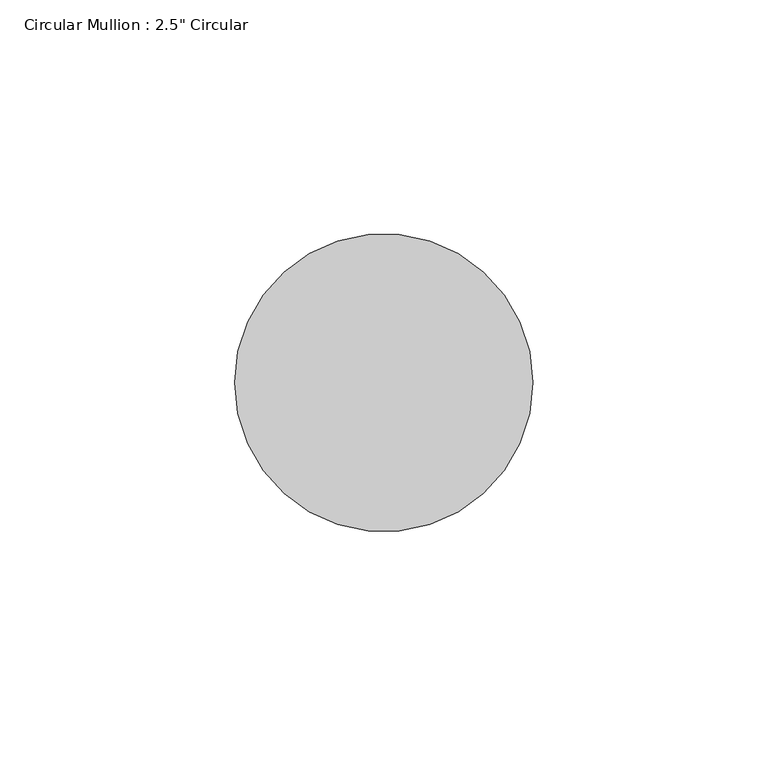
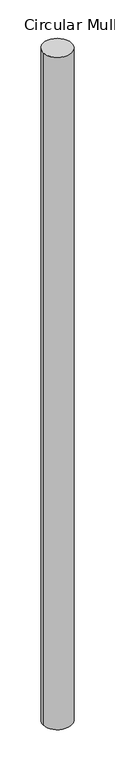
"""IFC4 building model written with IfcOpenShell, lengths in millimetres: member geometry."""

from ifc_helpers import new_model, si_unit, point, frame, origin, origin_2d, place, context, project, spatial, circle_curve, trimmed, segment, composite_curve, outline, extrude, source, transform, mapped, element, save


def member_1a926e2a(model_context):
    return source(origin(), model_context, "Body", "SweptSolid", [
        extrude(outline(composite_curve([segment(trimmed(circle_curve(origin_2d(), 31.75), [point((31.75, 0.0))], [point((-31.75, 0.0))], False, "CARTESIAN"), True, "CONTINUOUS"), segment(trimmed(circle_curve(origin_2d(), 31.75), [point((-31.75, 0.0))], [point((31.75, 0.0))], False, "CARTESIAN"), True, "CONTINUOUS")], self_intersect=False)), frame((0.0, 0.0, -1571.20363), z_axis=(0.0, 0.0, 1.0), x_axis=(1.0, 0.0, 0.0)), (0.0, 0.0, 1.0), 1571.20363),
    ])


if __name__ == "__main__":
    model = new_model("IFC4")
    model_context = context("Model", 3, world=origin())
    ifc_project = project(units=[si_unit("LENGTHUNIT", "METRE", prefix="MILLI")], contexts=[model_context])
    site = spatial("IfcSite", under=ifc_project)
    building = spatial("IfcBuilding", under=site)
    placement = place(None, origin())
    member_shape = member_1a926e2a(model_context)
    element("IfcMember", 1, ObjectType="Circular Mullion : 2.5\" Circular", at=placement, inside=building, context=model_context, shape_type="MappedRepresentation", body=[
        mapped(member_shape, transform((0.0, 0.0, 0.0), x_axis=(1.0, 0.0, 0.0), y_axis=(0.0, 1.0, 0.0), z_axis=(0.0, 0.0, 1.0))),
    ])
    save(model, "model.ifc")
